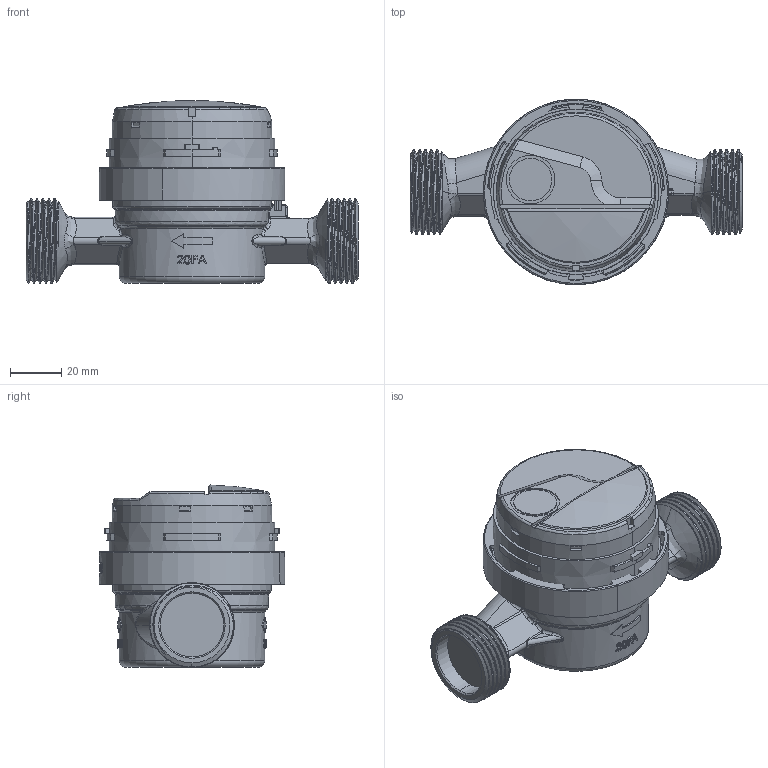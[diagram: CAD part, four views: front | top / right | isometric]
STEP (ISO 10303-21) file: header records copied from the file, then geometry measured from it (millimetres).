
FILE_DESCRIPTION (( 'STEP AP214' ), '1' );
FILE_NAME ('JS90-4-07.STEP', '2022-09-15T08:04:57', ( '' ), ( '' ), 'SwSTEP 2.0', 'SolidWorks 2019', '' );
FILE_SCHEMA (( 'AUTOMOTIVE_DESIGN' ));
Length unit declared in the file: millimetre
Products named in the file (8): js4; Assembly-1108; 9060-000022; szklanka; JS90-4-07; 9004-750202_zagi﹖a; Liczyd³o; 9004-750201
Assembly tree (7 placements, depth 3):
  JS90-4-07
    js4
    Assembly-1108
      9004-750201
      9004-750202_zagi﹖a
    Liczyd³o
    szklanka
    9060-000022
Bounding box: 130 x 72.71 x 71.53 mm (x, y, z)
Volume: 223757.4 mm3; surface area: 67569.3 mm2
Topology: 7 solids, 16 shells, 2009 faces, 5524 edges, 3609 vertices
Faces by surface type: plane 844, bspline 470, cylinder 468, cone 136, torus 78, sphere 13
Entity records: 126615 total; most frequent: CARTESIAN_POINT 63292, ORIENTED_EDGE 11030, DIRECTION 8258, EDGE_CURVE 5515, VERTEX_POINT 3609, AXIS2_PLACEMENT_3D 3012, LINE 2234, VECTOR 2234
